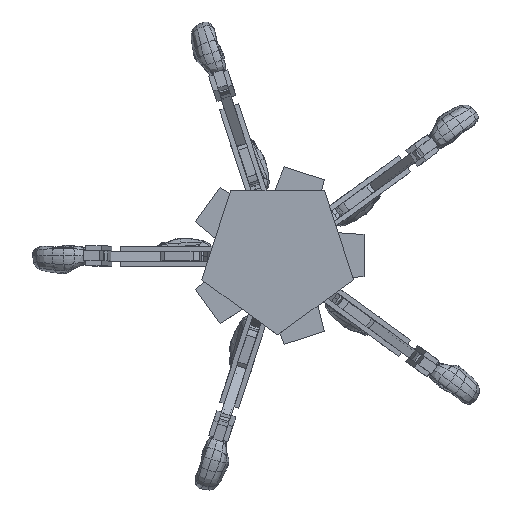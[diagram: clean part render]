
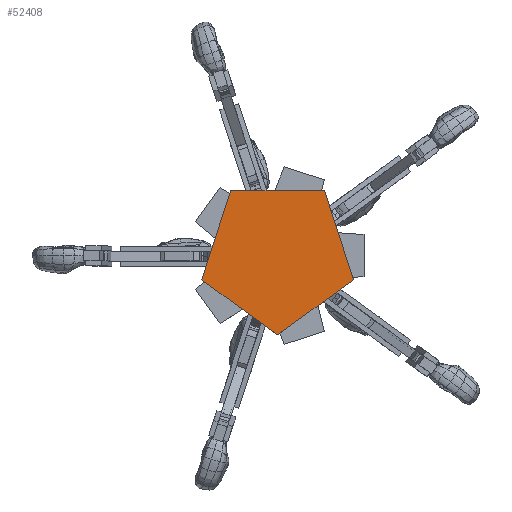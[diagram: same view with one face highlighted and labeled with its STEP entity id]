
A CAD part, top view. The second image highlights one B-rep face of the part: STEP entity #52408.
In plain terms, the highlighted planar face has unit normal (0, 0, 1).
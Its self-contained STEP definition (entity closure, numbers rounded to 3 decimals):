
#8908=FACE_OUTER_BOUND('',#13152,.T.);
#13152=EDGE_LOOP('',(#39008,#39009,#39010,#39011,#39012));
#17189=LINE('',#77402,#20110);
#17195=LINE('',#77413,#20116);
#17198=LINE('',#77419,#20119);
#17199=LINE('',#77422,#20120);
#17202=LINE('',#77427,#20123);
#20110=VECTOR('',#66013,10.);
#20116=VECTOR('',#66021,10.);
#20119=VECTOR('',#66026,10.);
#20120=VECTOR('',#66029,10.);
#20123=VECTOR('',#66034,10.);
#23288=VERTEX_POINT('',#77400);
#23289=VERTEX_POINT('',#77401);
#23293=VERTEX_POINT('',#77411);
#23295=VERTEX_POINT('',#77417);
#23296=VERTEX_POINT('',#77421);
#28708=EDGE_CURVE('',#23288,#23289,#17189,.T.);
#28714=EDGE_CURVE('',#23293,#23288,#17195,.T.);
#28717=EDGE_CURVE('',#23295,#23293,#17198,.T.);
#28718=EDGE_CURVE('',#23296,#23295,#17199,.T.);
#28721=EDGE_CURVE('',#23289,#23296,#17202,.T.);
#39008=ORIENTED_EDGE('',*,*,#28708,.F.);
#39009=ORIENTED_EDGE('',*,*,#28714,.F.);
#39010=ORIENTED_EDGE('',*,*,#28717,.F.);
#39011=ORIENTED_EDGE('',*,*,#28718,.F.);
#39012=ORIENTED_EDGE('',*,*,#28721,.F.);
#47037=PLANE('',#56952);
#52408=ADVANCED_FACE('',(#8908),#47037,.F.);
#56952=AXIS2_PLACEMENT_3D('',#77443,#66049,#66050);
#66013=DIRECTION('',(-0.809,-0.588,0.));
#66021=DIRECTION('',(0.309,-0.951,0.));
#66026=DIRECTION('',(1.,0.,0.));
#66029=DIRECTION('',(0.309,0.951,0.));
#66034=DIRECTION('',(-0.809,0.588,0.));
#66049=DIRECTION('center_axis',(0.,0.,
-1.));
#66050=DIRECTION('ref_axis',(0.,1.,0.));
#77400=CARTESIAN_POINT('',(189.541,-61.586,527.5));
#77401=CARTESIAN_POINT('',(0.,-199.295,527.5));
#77402=CARTESIAN_POINT('',(46.797,-165.295,527.5));
#77411=CARTESIAN_POINT('',(117.143,161.233,527.5));
#77413=CARTESIAN_POINT('',(171.666,-6.572,527.5));
#77417=CARTESIAN_POINT('',(-117.143,161.233,527.5));
#77419=CARTESIAN_POINT('',(59.298,161.233,527.5));
#77421=CARTESIAN_POINT('',(-189.541,-61.586,527.5));
#77422=CARTESIAN_POINT('',(-135.018,106.219,527.5));
#77427=CARTESIAN_POINT('',(-142.743,-95.586,527.5));
#77443=CARTESIAN_POINT('Origin',(0.,0.,
527.5));
